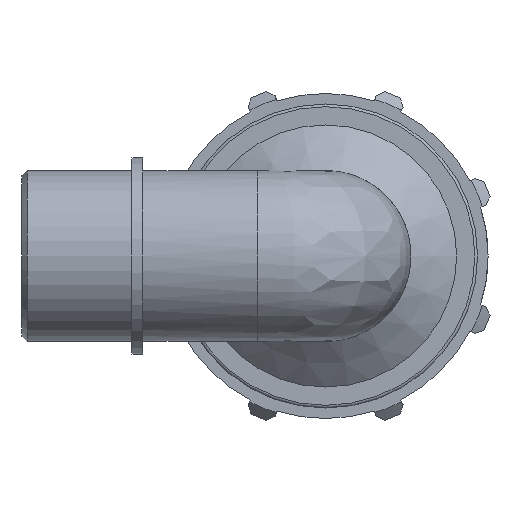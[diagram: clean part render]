
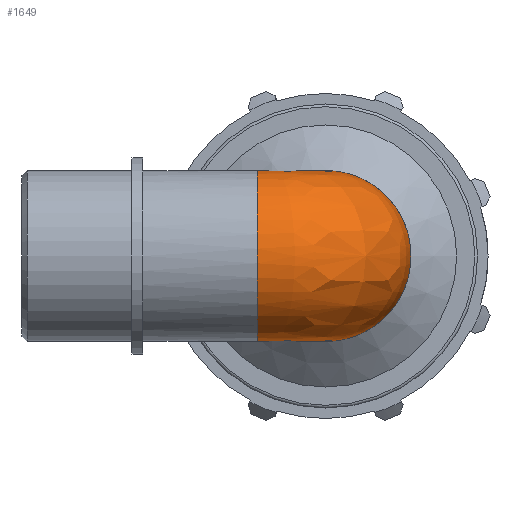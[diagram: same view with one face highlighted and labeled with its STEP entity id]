
A CAD part, left-side view. The second image highlights one B-rep face of the part: STEP entity #1649.
In plain terms, the highlighted free-form (B-spline) face has degree [2, 2] with [9, 3] control points.
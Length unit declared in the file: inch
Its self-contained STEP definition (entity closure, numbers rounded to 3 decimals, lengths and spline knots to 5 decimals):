
#110=(
BOUNDED_SURFACE()
B_SPLINE_SURFACE(2,2,((#2468,#2469,#2470),(#2471,#2472,#2473),(#2474,#2475,
#2476),(#2477,#2478,#2479),(#2480,#2481,#2482),(#2483,#2484,#2485),(#2486,
#2487,#2488),(#2489,#2490,#2491),(#2492,#2493,#2494)),.UNSPECIFIED.,.F.,
 .F.,.F.)
B_SPLINE_SURFACE_WITH_KNOTS((3,2,2,2,3),(3,3),(-2.49809,-1.24905,
0.,1.24905,2.49809),(-3.14159,-1.5708),
 .UNSPECIFIED.)
GEOMETRIC_REPRESENTATION_ITEM()
RATIONAL_B_SPLINE_SURFACE(((1.,0.707,1.),(0.811,
0.574,0.811),(1.,0.707,1.),(0.811,
0.574,0.811),(1.,0.707,1.),(0.811,
0.574,0.811),(1.,0.707,1.),(0.811,
0.574,0.811),(1.,0.707,1.)))
REPRESENTATION_ITEM('')
SURFACE()
);
#342=FACE_OUTER_BOUND('',#428,.T.);
#428=EDGE_LOOP('',(#1057,#1058));
#523=CIRCLE('',#1755,0.52049);
#530=CIRCLE('',#1765,0.52049);
#624=VERTEX_POINT('',#2431);
#625=VERTEX_POINT('',#2433);
#794=EDGE_CURVE('',#624,#625,#523,.T.);
#805=EDGE_CURVE('',#624,#625,#530,.T.);
#1057=ORIENTED_EDGE('',*,*,#805,.T.);
#1058=ORIENTED_EDGE('',*,*,#794,.F.);
#1649=ADVANCED_FACE('',(#342),#110,.F.);
#1755=AXIS2_PLACEMENT_3D('',#2434,#1947,#1948);
#1765=AXIS2_PLACEMENT_3D('',#2467,#1968,#1969);
#1947=DIRECTION('center_axis',(1.,0.,0.));
#1948=DIRECTION('ref_axis',(0.,-1.,0.));
#1968=DIRECTION('center_axis',(0.,-1.,0.));
#1969=DIRECTION('ref_axis',(-1.,0.,0.));
#2431=CARTESIAN_POINT('',(0.41639,0.41639,0.3123));
#2433=CARTESIAN_POINT('',(0.41639,0.41639,-0.3123));
#2434=CARTESIAN_POINT('Origin',(0.41639,0.,
0.));
#2467=CARTESIAN_POINT('Origin',(0.,0.41639,
0.));
#2468=CARTESIAN_POINT('Ctrl Pts',(0.41639,0.41639,-0.3123));
#2469=CARTESIAN_POINT('Ctrl Pts',(0.41639,0.41639,-0.3123));
#2470=CARTESIAN_POINT('Ctrl Pts',(0.41639,0.41639,-0.3123));
#2471=CARTESIAN_POINT('Ctrl Pts',(0.1913,0.41639,-0.61241));
#2472=CARTESIAN_POINT('Ctrl Pts',(0.1913,0.1913,-0.61241));
#2473=CARTESIAN_POINT('Ctrl Pts',(0.41639,0.1913,-0.61241));
#2474=CARTESIAN_POINT('Ctrl Pts',(-0.16459,0.41639,
-0.49378));
#2475=CARTESIAN_POINT('Ctrl Pts',(-0.16459,-0.16459,
-0.49378));
#2476=CARTESIAN_POINT('Ctrl Pts',(0.41639,-0.16459,
-0.49378));
#2477=CARTESIAN_POINT('Ctrl Pts',(-0.52049,0.41639,
-0.37515));
#2478=CARTESIAN_POINT('Ctrl Pts',(-0.52049,-0.52049,
-0.37515));
#2479=CARTESIAN_POINT('Ctrl Pts',(0.41639,-0.52049,
-0.37515));
#2480=CARTESIAN_POINT('Ctrl Pts',(-0.52049,0.41639,
0.));
#2481=CARTESIAN_POINT('Ctrl Pts',(-0.52049,-0.52049,
0.));
#2482=CARTESIAN_POINT('Ctrl Pts',(0.41639,-0.52049,
0.));
#2483=CARTESIAN_POINT('Ctrl Pts',(-0.52049,0.41639,
0.37515));
#2484=CARTESIAN_POINT('Ctrl Pts',(-0.52049,-0.52049,
0.37515));
#2485=CARTESIAN_POINT('Ctrl Pts',(0.41639,-0.52049,
0.37515));
#2486=CARTESIAN_POINT('Ctrl Pts',(-0.16459,0.41639,
0.49378));
#2487=CARTESIAN_POINT('Ctrl Pts',(-0.16459,-0.16459,
0.49378));
#2488=CARTESIAN_POINT('Ctrl Pts',(0.41639,-0.16459,
0.49378));
#2489=CARTESIAN_POINT('Ctrl Pts',(0.1913,0.41639,0.61241));
#2490=CARTESIAN_POINT('Ctrl Pts',(0.1913,0.1913,0.61241));
#2491=CARTESIAN_POINT('Ctrl Pts',(0.41639,0.1913,0.61241));
#2492=CARTESIAN_POINT('Ctrl Pts',(0.41639,0.41639,0.3123));
#2493=CARTESIAN_POINT('Ctrl Pts',(0.41639,0.41639,0.3123));
#2494=CARTESIAN_POINT('Ctrl Pts',(0.41639,0.41639,0.3123));
